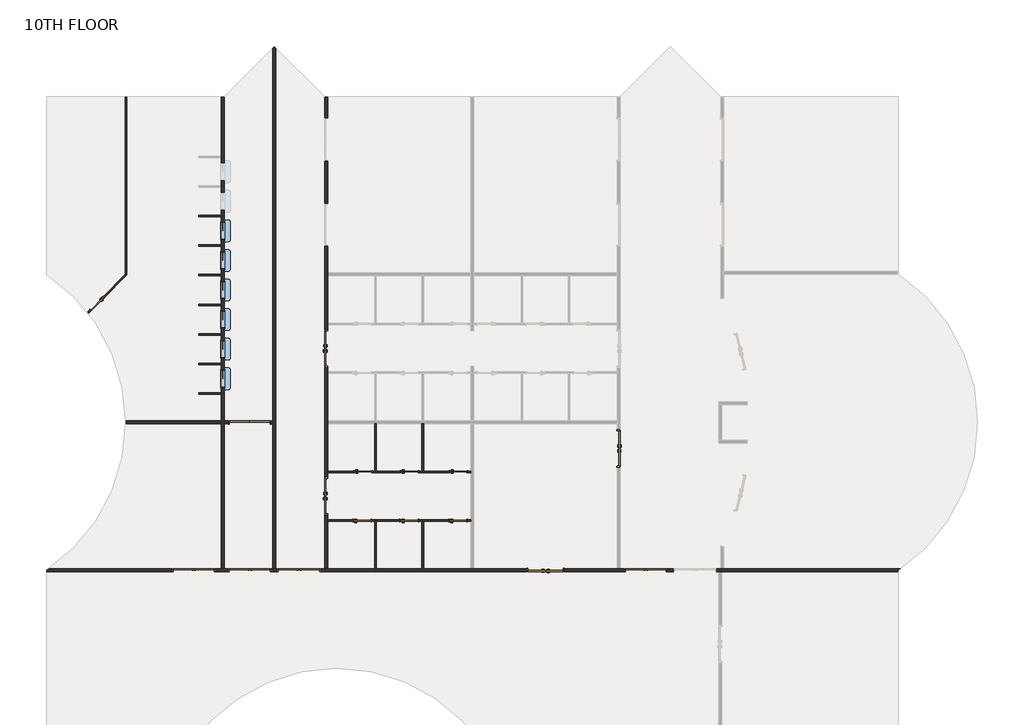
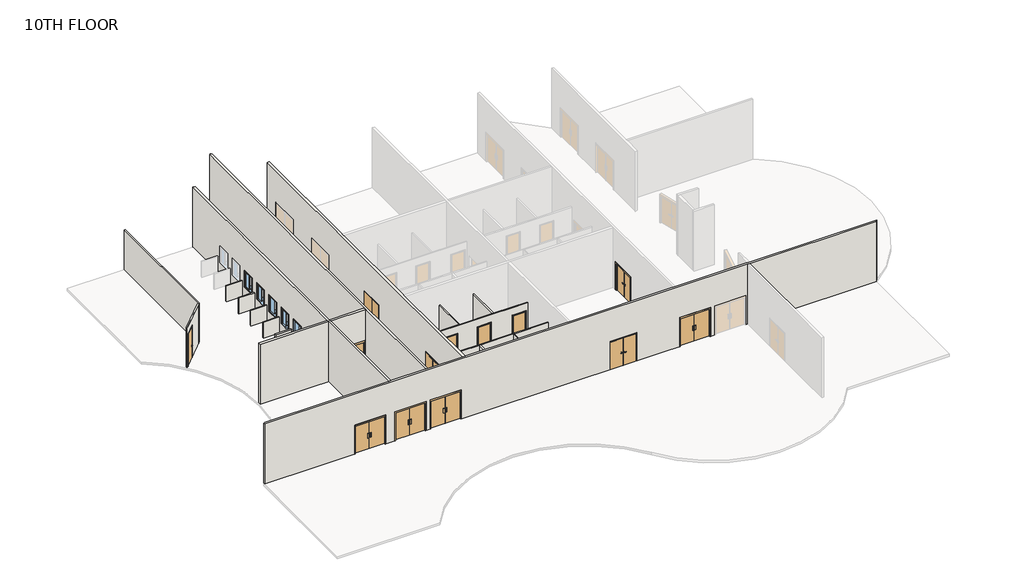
# One storey, part 1 of 2: 20 walls, 16 doors, 6 windows.
"""IFC4 building model written with IfcOpenShell, lengths in millimetres."""

from ifc_helpers import new_model, si_unit, point, frame, frame_2d, origin, place, context, project, spatial, polyline, circle_curve, trimmed, segment, composite_curve, outline, extrude, faceted_brep, transform, mapped, element, save
from ifc_brep_helpers import plane_surface, cylinder_surface, revolved_surface, advanced_brep
from components import door_2f250f70, door_0b13e4d9, door_b3a27a16, door_979b1b8c, door_f8b587be, pass_thru_4x3_19d81059

model = new_model("IFC4")

# Units and contexts
model_context = context("Model", 3, world=origin())
ifc_project = project(units=[si_unit("LENGTHUNIT", "METRE", prefix="MILLI")], contexts=[model_context])

# Site, building, storey
site = spatial("IfcSite", under=ifc_project)
building = spatial("IfcBuilding", under=site)
storey = spatial("IfcBuildingStorey", under=building, Name="10TH FLOOR", Elevation=45720.0)

# Doors
placement = place(None, origin())
door_shape = door_2f250f70(model_context)
element("IfcDoor", 1, ObjectType="Door-Passage-Double-Flush : 72\" x 82\"", at=placement, inside=storey, context=model_context, shape_type="MappedRepresentation", body=[
    mapped(door_shape, transform((14556.3400257, 13109.575, 45720.0), x_axis=(0.0, 1.0, 0.0), y_axis=(-1.0, 0.0, 0.0), z_axis=(0.0, 0.0, 1.0))),
])
element("IfcDoor", 2, ObjectType="Door-Passage-Double-Flush : 72\" x 82\"", at=placement, inside=storey, context=model_context, shape_type="MappedRepresentation", body=[
    mapped(door_shape, transform((14556.3400257, 20729.575, 45720.0), x_axis=(0.0, 1.0, 0.0), y_axis=(-1.0, 0.0, 0.0), z_axis=(0.0, 0.0, 1.0))),
])
element("IfcDoor", 3, ObjectType="Door-Passage-Double-Flush : 72\" x 82\"", at=placement, inside=storey, context=model_context, shape_type="MappedRepresentation", body=[
    mapped(door_shape, transform((25872.8337757, 9305.925, 45720.0), x_axis=(-1.0, 0.0, 0.0), y_axis=(0.0, -1.0, 0.0), z_axis=(0.0, 0.0, 1.0))),
])
element("IfcDoor", 4, ObjectType="Door-Passage-Double-Flush : 72\" x 82\"", at=placement, inside=storey, context=model_context, shape_type="MappedRepresentation", body=[
    mapped(door_shape, transform((29628.0650257, 15571.7875, 45720.0), x_axis=(0.0, -1.0, 0.0), y_axis=(1.0, 0.0, 0.0), z_axis=(0.0, 0.0, 1.0))),
])
door_2_shape = door_0b13e4d9(model_context)
element("IfcDoor", 5, ObjectType="Door-Passage-Double-Flush-Dbl_Acting : 84\" x 84\"", at=placement, inside=storey, context=model_context, shape_type="MappedRepresentation", body=[
    mapped(door_2_shape, transform((13151.4025257, 9293.225, 45720.0), x_axis=(-1.0, 0.0, 0.0), y_axis=(0.0, -1.0, 0.0), z_axis=(0.0, 0.0, 1.0))),
])
door_3_shape = door_b3a27a16(model_context)
element("IfcDoor", 6, ObjectType="Door-Passage-Double-Flush-Dbl_Acting : 84\" x 84\"", at=placement, inside=storey, context=model_context, shape_type="MappedRepresentation", body=[
    mapped(door_3_shape, transform((31033.0025257, 9293.225, 45720.0), x_axis=(1.0, 0.0, 0.0), y_axis=(0.0, 1.0, 0.0), z_axis=(0.0, 0.0, 1.0))),
])
element("IfcDoor", 7, ObjectType="Door-Passage-Double-Flush-Dbl_Acting : 84\" x 84\"", at=placement, inside=storey, context=model_context, shape_type="MappedRepresentation", body=[
    mapped(door_3_shape, transform((10620.375, 9293.225, 45720.0), x_axis=(1.0, 0.0, 0.0), y_axis=(0.0, 1.0, 0.0), z_axis=(0.0, 0.0, 1.0))),
])
element("IfcDoor", 8, ObjectType="Door-Passage-Double-Flush-Dbl_Acting : 84\" x 84\"", at=placement, inside=storey, context=model_context, shape_type="MappedRepresentation", body=[
    mapped(door_3_shape, transform((7730.5724743, 9293.225, 45720.0), x_axis=(1.0, 0.0, 0.0), y_axis=(0.0, 1.0, 0.0), z_axis=(0.0, 0.0, 1.0))),
])
element("IfcDoor", 9, ObjectType="Door-Passage-Double-Flush-Dbl_Acting : 84\" x 84\"", at=placement, inside=storey, context=model_context, shape_type="MappedRepresentation", body=[
    mapped(door_3_shape, transform((10620.375, 16913.225, 45720.0), x_axis=(1.0, 0.0, 0.0), y_axis=(0.0, 1.0, 0.0), z_axis=(0.0, 0.0, 1.0))),
])
door_4_shape = door_979b1b8c(model_context)
element("IfcDoor", 10, ObjectType="Door-Passage-Single-Flush : 36\" x 96\"", at=placement, inside=storey, context=model_context, shape_type="MappedRepresentation", body=[
    mapped(door_4_shape, transform((16456.5775257, 14357.35, 45720.0), x_axis=(1.0, 0.0, 0.0), y_axis=(0.0, 1.0, 0.0), z_axis=(0.0, 0.0, 1.0))),
])
element("IfcDoor", 11, ObjectType="Door-Passage-Single-Flush : 36\" x 96\"", at=placement, inside=storey, context=model_context, shape_type="MappedRepresentation", body=[
    mapped(door_4_shape, transform((18855.2900257, 14357.35, 45720.0), x_axis=(1.0, 0.0, 0.0), y_axis=(0.0, 1.0, 0.0), z_axis=(0.0, 0.0, 1.0))),
])
element("IfcDoor", 12, ObjectType="Door-Passage-Single-Flush : 36\" x 96\"", at=placement, inside=storey, context=model_context, shape_type="MappedRepresentation", body=[
    mapped(door_4_shape, transform((21373.0650257, 14357.35, 45720.0), x_axis=(1.0, 0.0, 0.0), y_axis=(0.0, 1.0, 0.0), z_axis=(0.0, 0.0, 1.0))),
])
element("IfcDoor", 13, ObjectType="Door-Passage-Single-Flush : 36\" x 96\"", at=placement, inside=storey, context=model_context, shape_type="MappedRepresentation", body=[
    mapped(door_4_shape, transform((2731.3607977, 23031.2061406, 45720.0), x_axis=(-0.7071067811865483, -0.7071067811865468, 0.0), y_axis=(0.7071067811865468, -0.7071067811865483, 0.0), z_axis=(0.0, 0.0, 1.0))),
])
door_5_shape = door_f8b587be(model_context)
element("IfcDoor", 14, ObjectType="Door-Passage-Single-Flush : 36\" x 96\"", at=placement, inside=storey, context=model_context, shape_type="MappedRepresentation", body=[
    mapped(door_5_shape, transform((16405.7775257, 11861.8, 45720.0), x_axis=(1.0, 0.0, 0.0), y_axis=(0.0, 1.0, 0.0), z_axis=(0.0, 0.0, 1.0))),
])
element("IfcDoor", 15, ObjectType="Door-Passage-Single-Flush : 36\" x 96\"", at=placement, inside=storey, context=model_context, shape_type="MappedRepresentation", body=[
    mapped(door_5_shape, transform((18836.2400257, 11861.8, 45720.0), x_axis=(1.0, 0.0, 0.0), y_axis=(0.0, 1.0, 0.0), z_axis=(0.0, 0.0, 1.0))),
])
element("IfcDoor", 16, ObjectType="Door-Passage-Single-Flush : 36\" x 96\"", at=placement, inside=storey, context=model_context, shape_type="MappedRepresentation", body=[
    mapped(door_5_shape, transform((21354.0150257, 11861.8, 45720.0), x_axis=(1.0, 0.0, 0.0), y_axis=(0.0, 1.0, 0.0), z_axis=(0.0, 0.0, 1.0))),
])

# Walls
element("IfcWall", 17, ObjectType="SYR_INT_ONE_HOUR", at=placement, inside=storey, context=model_context, shape_type="SweptSolid", body=[
    extrude(outline(polyline([(17066.1775257, 14403.3875), (17066.1775257, 16841.7875), (17145.5525257, 16841.7875), (17145.5525257, 14403.3875), (17066.1775257, 14403.3875)])), frame((0.0, 0.0, 45720.0), z_axis=(0.0, 0.0, 1.0), x_axis=(1.0, 0.0, 0.0)), (0.0, 0.0, 1.0), 3048.0),
])
element("IfcWall", 18, ObjectType="SYR_INT_ONE_HOUR", at=placement, inside=storey, context=model_context, shape_type="SweptSolid", body=[
    extrude(outline(polyline([(19576.0150257, 11815.7625), (19576.0150257, 9377.3625), (19496.6400257, 9377.3625), (19496.6400257, 11815.7625), (19576.0150257, 11815.7625)])), frame((0.0, 0.0, 45720.0), z_axis=(0.0, 0.0, 1.0), x_axis=(1.0, 0.0, 0.0)), (0.0, 0.0, 1.0), 3048.0),
])
element("IfcWall", 19, ObjectType="SYR_INT_ONE_HOUR", at=placement, inside=storey, context=model_context, shape_type="Brep", body=[
    faceted_brep([(14627.7775257, 14403.3875, 48768.0), (17066.1775257, 14403.3875, 48768.0), (17145.5525257, 14403.3875, 48768.0), (19496.6400257, 14403.3875, 48768.0), (19576.0150257, 14403.3875, 48768.0), (22014.4150257, 14403.3875, 48768.0), (22014.4150257, 14403.3875, 45720.0), (21862.0150257, 14403.3875, 45720.0), (21862.0150257, 14403.3875, 48190.15), (20884.1150257, 14403.3875, 48190.15), (20884.1150257, 14403.3875, 45720.0), (19576.0150257, 14403.3875, 45720.0), (19496.6400257, 14403.3875, 45720.0), (19344.2400257, 14403.3875, 45720.0), (19344.2400257, 14403.3875, 48190.15), (18366.3400257, 14403.3875, 48190.15), (18366.3400257, 14403.3875, 45720.0), (17145.5525257, 14403.3875, 45720.0), (17066.1775257, 14403.3875, 45720.0), (16945.5275257, 14403.3875, 45720.0), (16945.5275257, 14403.3875, 48190.15), (15967.6275257, 14403.3875, 48190.15), (15967.6275257, 14403.3875, 45720.0), (14627.7775257, 14403.3875, 45720.0), (22014.4150257, 14324.0125, 48768.0), (14627.7775257, 14324.0125, 48768.0), (14627.7775257, 14324.0125, 45720.0), (15967.6275257, 14324.0125, 45720.0), (15967.6275257, 14324.0125, 48190.15), (16945.5275257, 14324.0125, 48190.15), (16945.5275257, 14324.0125, 45720.0), (18366.3400257, 14324.0125, 45720.0), (18366.3400257, 14324.0125, 48190.15), (19344.2400257, 14324.0125, 48190.15), (19344.2400257, 14324.0125, 45720.0), (20884.1150257, 14324.0125, 45720.0), (20884.1150257, 14324.0125, 48190.15), (21862.0150257, 14324.0125, 48190.15), (21862.0150257, 14324.0125, 45720.0), (22014.4150257, 14324.0125, 45720.0)], [[[0, 1, 2, 3, 4, 5, 6, 7, 8, 9, 10, 11, 12, 13, 14, 15, 16, 17, 18, 19, 20, 21, 22, 23]], [[24, 25, 26, 27, 28, 29, 30, 31, 32, 33, 34, 35, 36, 37, 38, 39]], [[6, 39, 38, 7]], [[26, 23, 22, 27]], [[30, 19, 18, 17, 16, 31]], [[34, 13, 12, 11, 10, 35]], [[5, 4, 3, 2, 1, 0, 25, 24]], [[0, 23, 26, 25]], [[6, 5, 24, 39]], [[29, 20, 19, 30]], [[20, 29, 28, 21]], [[21, 28, 27, 22]], [[14, 13, 34, 33]], [[15, 14, 33, 32]], [[16, 15, 32, 31]], [[37, 8, 7, 38]], [[8, 37, 36, 9]], [[9, 36, 35, 10]]]),
])
element("IfcWall", 20, ObjectType="SYR_INT_ONE_HOUR", at=placement, inside=storey, context=model_context, shape_type="Brep", body=[
    faceted_brep([(14627.7775257, 11895.1375, 48768.0), (22014.4150257, 11895.1375, 48768.0), (22014.4150257, 11895.1375, 45720.0), (21842.9650257, 11895.1375, 45720.0), (21842.9650257, 11895.1375, 48190.15), (20865.0650257, 11895.1375, 48190.15), (20865.0650257, 11895.1375, 45720.0), (19325.1900257, 11895.1375, 45720.0), (19325.1900257, 11895.1375, 48190.15), (18347.2900257, 11895.1375, 48190.15), (18347.2900257, 11895.1375, 45720.0), (16894.7275257, 11895.1375, 45720.0), (16894.7275257, 11895.1375, 48190.15), (15916.8275257, 11895.1375, 48190.15), (15916.8275257, 11895.1375, 45720.0), (14627.7775257, 11895.1375, 45720.0), (22014.4150257, 11815.7625, 48768.0), (19576.0150257, 11815.7625, 48768.0), (19496.6400257, 11815.7625, 48768.0), (17145.5525257, 11815.7625, 48768.0), (17066.1775257, 11815.7625, 48768.0), (14627.7775257, 11815.7625, 48768.0), (14627.7775257, 11815.7625, 45720.0), (15916.8275257, 11815.7625, 45720.0), (15916.8275257, 11815.7625, 48190.15), (16894.7275257, 11815.7625, 48190.15), (16894.7275257, 11815.7625, 45720.0), (17066.1775257, 11815.7625, 45720.0), (17145.5525257, 11815.7625, 45720.0), (18347.2900257, 11815.7625, 45720.0), (18347.2900257, 11815.7625, 48190.15), (19325.1900257, 11815.7625, 48190.15), (19325.1900257, 11815.7625, 45720.0), (19496.6400257, 11815.7625, 45720.0), (19576.0150257, 11815.7625, 45720.0), (20865.0650257, 11815.7625, 45720.0), (20865.0650257, 11815.7625, 48190.15), (21842.9650257, 11815.7625, 48190.15), (21842.9650257, 11815.7625, 45720.0), (22014.4150257, 11815.7625, 45720.0)], [[[0, 1, 2, 3, 4, 5, 6, 7, 8, 9, 10, 11, 12, 13, 14, 15]], [[16, 17, 18, 19, 20, 21, 22, 23, 24, 25, 26, 27, 28, 29, 30, 31, 32, 33, 34, 35, 36, 37, 38, 39]], [[2, 39, 38, 3]], [[22, 15, 14, 23]], [[26, 11, 10, 29, 28, 27]], [[32, 7, 6, 35, 34, 33]], [[1, 0, 21, 20, 19, 18, 17, 16]], [[0, 15, 22, 21]], [[2, 1, 16, 39]], [[25, 12, 11, 26]], [[12, 25, 24, 13]], [[13, 24, 23, 14]], [[31, 8, 7, 32]], [[8, 31, 30, 9]], [[9, 30, 29, 10]], [[37, 4, 3, 38]], [[4, 37, 36, 5]], [[5, 36, 35, 6]]]),
])
element("IfcWall", 21, ObjectType="SYR_INT_ONE_HOUR", at=placement, inside=storey, context=model_context, shape_type="SweptSolid", body=[
    extrude(outline(polyline([(17066.1775257, 9377.3625), (17066.1775257, 11815.7625), (17145.5525257, 11815.7625), (17145.5525257, 9377.3625), (17066.1775257, 9377.3625)])), frame((0.0, 0.0, 45720.0), z_axis=(0.0, 0.0, 1.0), x_axis=(1.0, 0.0, 0.0)), (0.0, 0.0, 1.0), 3048.0),
])
element("IfcWall", 22, ObjectType="SYR_INT_ONE_HOUR", at=placement, inside=storey, context=model_context, shape_type="SweptSolid", body=[
    extrude(outline(polyline([(19576.0150257, 16841.7875), (19576.0150257, 14403.3875), (19496.6400257, 14403.3875), (19496.6400257, 16841.7875), (19576.0150257, 16841.7875)])), frame((0.0, 0.0, 45720.0), z_axis=(0.0, 0.0, 1.0), x_axis=(1.0, 0.0, 0.0)), (0.0, 0.0, 1.0), 3048.0),
])
element("IfcWall", 23, ObjectType="SYR_INT_ONE_HOUR", at=placement, inside=storey, context=model_context, shape_type="SweptSolid", body=[
    extrude(outline(polyline([(7979.2710938, 18443.575), (9144.0, 18443.575), (9144.0, 18364.2), (7979.2710938, 18364.2), (7979.2710938, 18443.575)])), frame((0.0, 0.0, 45720.0), z_axis=(0.0, 0.0, 1.0), x_axis=(1.0, 0.0, 0.0)), (0.0, 0.0, 1.0), 1219.2),
])
element("IfcWall", 24, ObjectType="SYR_INT_ONE_HOUR", at=placement, inside=storey, context=model_context, shape_type="SweptSolid", body=[
    extrude(outline(polyline([(7979.2710938, 19967.575), (9144.0, 19967.575), (9144.0, 19888.2), (7979.2710938, 19888.2), (7979.2710938, 19967.575)])), frame((0.0, 0.0, 45720.0), z_axis=(0.0, 0.0, 1.0), x_axis=(1.0, 0.0, 0.0)), (0.0, 0.0, 1.0), 1219.2),
])
element("IfcWall", 25, ObjectType="SYR_INT_ONE_HOUR", at=placement, inside=storey, context=model_context, shape_type="SweptSolid", body=[
    extrude(outline(polyline([(7979.2710938, 21491.575), (9144.0, 21491.575), (9144.0, 21412.2), (7979.2710938, 21412.2), (7979.2710938, 21491.575)])), frame((0.0, 0.0, 45720.0), z_axis=(0.0, 0.0, 1.0), x_axis=(1.0, 0.0, 0.0)), (0.0, 0.0, 1.0), 1219.2),
])
element("IfcWall", 26, ObjectType="SYR_INT_ONE_HOUR", at=placement, inside=storey, context=model_context, shape_type="SweptSolid", body=[
    extrude(outline(polyline([(7979.2710938, 23015.575), (9144.0, 23015.575), (9144.0, 22936.2), (7979.2710938, 22936.2), (7979.2710938, 23015.575)])), frame((0.0, 0.0, 45720.0), z_axis=(0.0, 0.0, 1.0), x_axis=(1.0, 0.0, 0.0)), (0.0, 0.0, 1.0), 1219.2),
])
element("IfcWall", 27, ObjectType="SYR_INT_ONE_HOUR", at=placement, inside=storey, context=model_context, shape_type="SweptSolid", body=[
    extrude(outline(polyline([(7979.2710938, 24539.575), (9144.0, 24539.575), (9144.0, 24460.2), (7979.2710938, 24460.2), (7979.2710938, 24539.575)])), frame((0.0, 0.0, 45720.0), z_axis=(0.0, 0.0, 1.0), x_axis=(1.0, 0.0, 0.0)), (0.0, 0.0, 1.0), 1219.2),
])
element("IfcWall", 28, ObjectType="SYR_INT_ONE_HOUR", at=placement, inside=storey, context=model_context, shape_type="SweptSolid", body=[
    extrude(outline(polyline([(7979.2710938, 26063.575), (9144.0, 26063.575), (9144.0, 25984.2), (7979.2710938, 25984.2), (7979.2710938, 26063.575)])), frame((0.0, 0.0, 45720.0), z_axis=(0.0, 0.0, 1.0), x_axis=(1.0, 0.0, 0.0)), (0.0, 0.0, 1.0), 1219.2),
])
element("IfcWall", 29, ObjectType="SYR_INT_ONE_HOUR", at=placement, inside=storey, context=model_context, shape_type="SweptSolid", body=[
    extrude(outline(polyline([(7979.2710938, 27587.575), (9144.0, 27587.575), (9144.0, 27508.2), (7979.2710938, 27508.2), (7979.2710938, 27587.575)])), frame((0.0, 0.0, 45720.0), z_axis=(0.0, 0.0, 1.0), x_axis=(1.0, 0.0, 0.0)), (0.0, 0.0, 1.0), 1219.2),
])
element("IfcWall", 30, ObjectType="SYR_INT_ONE_HOUR", at=placement, inside=storey, context=model_context, shape_type="Brep", body=[
    faceted_brep([(4209.0224132, 33683.575, 45720.0), (4209.0224132, 24556.0141008, 45720.0), (4209.0224132, 24443.7608992, 45720.0), (4209.0224132, 24443.7608992, 48768.0), (4209.0224132, 24556.0141008, 48768.0), (4209.0224132, 33683.575, 48768.0), (4288.3974132, 33683.575, 45720.0), (4288.3974132, 33683.575, 48768.0), (4288.3974132, 24523.1358992, 48768.0), (4288.3974132, 24523.1358992, 45720.0)], [[[0, 1, 2, 3, 4, 5]], [[6, 7, 8, 9]], [[2, 1, 0, 6, 9]], [[5, 4, 3, 8, 7]], [[3, 2, 9, 8]], [[0, 5, 7, 6]]]),
])
element("IfcWall", 31, ObjectType="SYR_INT_ONE_HOUR", at=placement, inside=storey, context=model_context, shape_type="AdvancedBrep", body=[
    advanced_brep(
    [(2260.5955581, 22607.5872456, 48768.0), (4209.0224132, 24556.0141008, 48768.0), (4209.0224132, 24556.0141008, 45720.0), (3053.527486, 23400.5191735, 45720.0), (3053.527486, 23400.5191735, 48190.15), (2362.0477647, 22709.0394522, 48190.15), (2362.0477647, 22709.0394522, 45720.0), (2260.5955581, 22607.5872456, 45720.0), (4209.0224132, 24443.7608992, 48768.0), (2310.04482, 22544.783306, 48768.0), (2310.04482, 22544.783306, 45720.0), (2418.1743655, 22652.9128515, 45720.0), (2418.1743655, 22652.9128515, 48190.15), (3109.6540868, 23344.3925728, 48190.15), (3109.6540868, 23344.3925728, 45720.0), (4209.0224132, 24443.7608992, 45720.0)],
    [
        (0, 1),
        (1, 2),
        (2, 3),
        (3, 4),
        (4, 5),
        (5, 6),
        (6, 7),
        (7, 0),
        (8, 9),
        (9, 10),
        (10, 11),
        (11, 12),
        (12, 13),
        (13, 14),
        (14, 15),
        (15, 8),
        (2, 15),
        (14, 3),
        (10, 7, circle_curve(frame((-4898.9611805, 16919.575, 45720.0), z_axis=(0.0, 0.0, 1.0), x_axis=(1.0, 0.0, 0.0)), 9144.0)),
        (6, 11),
        (0, 9, circle_curve(frame((-4898.9611805, 16919.575, 48768.0), z_axis=(0.0, 0.0, -1.0), x_axis=(1.0, 0.0, 0.0)), 9144.0)),
        (8, 1),
        (5, 12),
        (4, 13),
    ],
    [
        plane_surface(frame((4220.6466129, 24567.6383004, 45720.0), z_axis=(-0.7071067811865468, 0.7071067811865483, 0.0), x_axis=(-0.7071067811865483, -0.7071067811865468, 0.0))),
        plane_surface(frame((4276.7732136, 24511.5116996, 45720.0), z_axis=(0.7071067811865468, -0.7071067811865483, 0.0), x_axis=(0.7071067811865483, 0.7071067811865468, 0.0))),
        plane_surface(frame((4220.6466129, 24567.6383004, 45720.0), z_axis=(0.0, 0.0, -1.0), x_axis=(0.7071067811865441, -0.7071067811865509, 0.0))),
        plane_surface(frame((2146.5216178, 22493.5133053, 48768.0), z_axis=(0.0, 0.0, 1.0000000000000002), x_axis=(0.7071067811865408, -0.7071067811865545, 0.0))),
        plane_surface(frame((4209.0224132, 33778.5769531, 45720.0), z_axis=(1.0, 0.0, 0.0), x_axis=(0.0, -1.0, 0.0))),
        plane_surface(frame((1284.4170302, 23786.6701867, 45720.0), z_axis=(0.7071067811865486, 0.7071067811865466, 0.0), x_axis=(0.7071067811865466, -0.7071067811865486, 0.0))),
        plane_surface(frame((1284.4170302, 23786.6701867, 48190.15), z_axis=(0.0, 0.0, -1.0), x_axis=(0.7071067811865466, -0.7071067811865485, 0.0))),
        plane_surface(frame((1975.8967515, 24478.1499081, 48190.15), z_axis=(-0.7071067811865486, -0.7071067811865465, 0.0), x_axis=(0.7071067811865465, -0.7071067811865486, 0.0))),
        revolved_surface(polyline([(4245.0388195, 16919.575, 48768.0), (4245.0388195, 16919.575, 45720.0)]), (-4898.9611805, 16919.575, 0.0), (0.0, 0.0, 1.0)),
    ],
    [
        (0, [[1, 2, 3, 4, 5, 6, 7, 8]]),
        (1, [[9, 10, 11, 12, 13, 14, 15, 16]]),
        (2, [[17, -15, 18, -3]]),
        (2, [[19, -7, 20, -11]]),
        (3, [[-1, 21, -9, 22]]),
        (4, [[-2, -22, -16, -17]]),
        (5, [[23, -12, -20, -6]]),
        (6, [[-23, -5, 24, -13]]),
        (7, [[-24, -4, -18, -14]]),
        (8, [[-8, -19, -10, -21]]),
    ],
),
])
element("IfcWall", 32, ObjectType="SYR_INT_TWO_HOUR", at=placement, inside=storey, context=model_context, shape_type="AdvancedBrep", body=[
    advanced_brep(
    [(270.9292057, 9377.3625, 50292.0), (9144.0, 9377.3625, 50292.0), (9299.575, 9377.3625, 50292.0), (11808.1012629, 9377.3625, 50292.0), (11963.6762629, 9377.3625, 50292.0), (14472.2025257, 9377.3625, 50292.0), (14627.7775257, 9377.3625, 50292.0), (22014.4150257, 9377.3625, 50292.0), (22169.9900257, 9377.3625, 50292.0), (29556.6275257, 9377.3625, 50292.0), (29712.2025257, 9377.3625, 50292.0), (34884.8300515, 9377.3625, 50292.0), (35040.4050515, 9377.3625, 50292.0), (44144.1842571, 9377.3625, 50292.0), (44144.1842571, 9377.3625, 45720.0), (35040.4050515, 9377.3625, 45720.0), (34884.8300515, 9377.3625, 45720.0), (34681.6300515, 9377.3625, 45720.0), (34681.6300515, 9377.3625, 47955.2), (32446.4300515, 9377.3625, 47955.2), (32446.4300515, 9377.3625, 45720.0), (32150.6025257, 9377.3625, 45720.0), (32150.6025257, 9377.3625, 47955.2), (29915.4025257, 9377.3625, 47955.2), (29915.4025257, 9377.3625, 45720.0), (29712.2025257, 9377.3625, 45720.0), (29556.6275257, 9377.3625, 45720.0), (26838.0337757, 9377.3625, 45720.0), (26838.0337757, 9377.3625, 47904.4), (24907.6337757, 9377.3625, 47904.4), (24907.6337757, 9377.3625, 45720.0), (22169.9900257, 9377.3625, 45720.0), (22014.4150257, 9377.3625, 45720.0), (19576.0150257, 9377.3625, 45720.0), (19496.6400257, 9377.3625, 45720.0), (17145.5525257, 9377.3625, 45720.0), (17066.1775257, 9377.3625, 45720.0), (14627.7775257, 9377.3625, 45720.0), (14472.2025257, 9377.3625, 45720.0), (14269.0025257, 9377.3625, 45720.0), (14269.0025257, 9377.3625, 47955.2), (12033.8025257, 9377.3625, 47955.2), (12033.8025257, 9377.3625, 45720.0), (11963.6762629, 9377.3625, 45720.0), (11808.1012629, 9377.3625, 45720.0), (11737.975, 9377.3625, 45720.0), (11737.975, 9377.3625, 47955.2), (9502.775, 9377.3625, 47955.2), (9502.775, 9377.3625, 45720.0), (9299.575, 9377.3625, 45720.0), (9144.0, 9377.3625, 45720.0), (8848.1724743, 9377.3625, 45720.0), (8848.1724743, 9377.3625, 47955.2), (6612.9724743, 9377.3625, 47955.2), (6612.9724743, 9377.3625, 45720.0), (270.9292057, 9377.3625, 45720.0), (155.575, 9221.7875, 50292.0), (155.575, 9221.7875, 45720.0), (6612.9724743, 9221.7875, 45720.0), (6612.9724743, 9221.7875, 47955.2), (8848.1724743, 9221.7875, 47955.2), (8848.1724743, 9221.7875, 45720.0), (9502.775, 9221.7875, 45720.0), (9502.775, 9221.7875, 47955.2), (11737.975, 9221.7875, 47955.2), (11737.975, 9221.7875, 45720.0), (12033.8025257, 9221.7875, 45720.0), (12033.8025257, 9221.7875, 47955.2), (14269.0025257, 9221.7875, 47955.2), (14269.0025257, 9221.7875, 45720.0), (24907.6337757, 9221.7875, 45720.0), (24907.6337757, 9221.7875, 47904.4), (26838.0337757, 9221.7875, 47904.4), (26838.0337757, 9221.7875, 45720.0), (29915.4025257, 9221.7875, 45720.0), (29915.4025257, 9221.7875, 47955.2), (32150.6025257, 9221.7875, 47955.2), (32150.6025257, 9221.7875, 45720.0), (32446.4300515, 9221.7875, 45720.0), (32446.4300515, 9221.7875, 47955.2), (34681.6300515, 9221.7875, 47955.2), (34681.6300515, 9221.7875, 45720.0), (34803.3714577, 9221.7875, 45720.0), (34958.9464577, 9221.7875, 45720.0), (44028.8300515, 9221.7875, 45720.0), (44028.8300515, 9221.7875, 50292.0), (34958.9464577, 9221.7875, 50292.0), (34803.3714577, 9221.7875, 50292.0), (44028.8300515, 9299.575, 45720.0), (155.575, 9299.575, 45720.0), (155.575, 9299.575, 50292.0), (44028.8300515, 9299.575, 50292.0)],
    [
        (0, 1),
        (1, 2),
        (2, 3),
        (3, 4),
        (4, 5),
        (5, 6),
        (6, 7),
        (7, 8),
        (8, 9),
        (9, 10),
        (10, 11),
        (11, 12),
        (12, 13),
        (13, 14),
        (14, 15),
        (15, 16),
        (16, 17),
        (17, 18),
        (18, 19),
        (19, 20),
        (20, 21),
        (21, 22),
        (22, 23),
        (23, 24),
        (24, 25),
        (25, 26),
        (26, 27),
        (27, 28),
        (28, 29),
        (29, 30),
        (30, 31),
        (31, 32),
        (32, 33),
        (33, 34),
        (34, 35),
        (35, 36),
        (36, 37),
        (37, 38),
        (38, 39),
        (39, 40),
        (40, 41),
        (41, 42),
        (42, 43),
        (43, 44),
        (44, 45),
        (45, 46),
        (46, 47),
        (47, 48),
        (48, 49),
        (49, 50),
        (50, 51),
        (51, 52),
        (52, 53),
        (53, 54),
        (54, 55),
        (55, 0),
        (56, 57),
        (57, 58),
        (58, 59),
        (59, 60),
        (60, 61),
        (61, 62),
        (62, 63),
        (63, 64),
        (64, 65),
        (65, 66),
        (66, 67),
        (67, 68),
        (68, 69),
        (69, 70),
        (70, 71),
        (71, 72),
        (72, 73),
        (73, 74),
        (74, 75),
        (75, 76),
        (76, 77),
        (77, 78),
        (78, 79),
        (79, 80),
        (80, 81),
        (81, 82),
        (82, 83),
        (83, 84),
        (84, 85),
        (85, 86),
        (86, 87),
        (87, 56),
        (20, 78),
        (77, 21),
        (81, 17),
        (14, 88, circle_curve(frame((38974.293871, 16919.575, 45720.0), z_axis=(0.0, 0.0, -1.0), x_axis=(0.8333333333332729, 0.5527707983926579, 0.0)), 9144.0)),
        (88, 84),
        (24, 74),
        (73, 27),
        (42, 66),
        (65, 45),
        (69, 39),
        (30, 70),
        (48, 62),
        (61, 51),
        (54, 58),
        (57, 89),
        (89, 55, circle_curve(frame((-4898.9611805, 16919.575, 45720.0), z_axis=(0.0, 0.0, 1.0), x_axis=(0.8333333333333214, 0.5527707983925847, 0.0)), 9144.0)),
        (0, 90, circle_curve(frame((-4898.9611805, 16919.575, 50292.0), z_axis=(0.0, 0.0, -1.0), x_axis=(0.8333333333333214, 0.5527707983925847, 0.0)), 9144.0)),
        (90, 56),
        (85, 91),
        (91, 13, circle_curve(frame((38974.293871, 16919.575, 50292.0), z_axis=(0.0, 0.0, 1.0), x_axis=(0.8333333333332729, 0.5527707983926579, 0.0)), 9144.0)),
        (19, 79),
        (18, 80),
        (76, 22),
        (75, 23),
        (41, 67),
        (40, 68),
        (64, 46),
        (63, 47),
        (60, 52),
        (59, 53),
        (29, 71),
        (28, 72),
        (89, 90),
        (91, 88),
    ],
    [
        plane_surface(frame((44028.8300515, 9377.3625, 45720.0), z_axis=(0.0, 1.0, 0.0), x_axis=(-1.0, 0.0, 0.0))),
        plane_surface(frame((44028.8300515, 9221.7875, 45720.0), z_axis=(0.0, -1.0, 0.0), x_axis=(1.0, 0.0, 0.0))),
        plane_surface(frame((44305.118871, 9377.3625, 45720.0), z_axis=(0.0, 0.0, -1.0), x_axis=(0.0, -1.0, 0.0))),
        plane_surface(frame((0.0, 9377.3625, 50292.0), z_axis=(0.0, 0.0, 1.0), x_axis=(0.0, -1.0, 0.0))),
        plane_surface(frame((32446.4300515, 10745.7875, 45720.0), z_axis=(1.0, 0.0, 0.0), x_axis=(0.0, -1.0, 0.0))),
        plane_surface(frame((32446.4300515, 10745.7875, 47955.2), z_axis=(0.0, 0.0, -1.0), x_axis=(0.0, -1.0, 0.0))),
        plane_surface(frame((34681.6300515, 10745.7875, 47955.2), z_axis=(-1.0, 0.0, 0.0), x_axis=(0.0, -1.0, 0.0))),
        plane_surface(frame((32150.6025257, 7697.7875, 45720.0), z_axis=(-1.0, 0.0, 0.0), x_axis=(0.0, 1.0, 0.0))),
        plane_surface(frame((32150.6025257, 7697.7875, 47955.2), z_axis=(0.0, 0.0, -1.0), x_axis=(0.0, 1.0, 0.0))),
        plane_surface(frame((29915.4025257, 7697.7875, 47955.2), z_axis=(1.0, 0.0, 0.0), x_axis=(0.0, 1.0, 0.0))),
        plane_surface(frame((12033.8025257, 10745.7875, 45720.0), z_axis=(1.0, 0.0, 0.0), x_axis=(0.0, -1.0, 0.0))),
        plane_surface(frame((12033.8025257, 10745.7875, 47955.2), z_axis=(0.0, 0.0, -1.0), x_axis=(0.0, -1.0, 0.0))),
        plane_surface(frame((14269.0025257, 10745.7875, 47955.2), z_axis=(-1.0, 0.0, 0.0), x_axis=(0.0, -1.0, 0.0))),
        plane_surface(frame((11737.975, 7697.7875, 45720.0), z_axis=(-1.0, 0.0, 0.0), x_axis=(0.0, 1.0, 0.0))),
        plane_surface(frame((11737.975, 7697.7875, 47955.2), z_axis=(0.0, 0.0, -1.0), x_axis=(0.0, 1.0, 0.0))),
        plane_surface(frame((9502.775, 7697.7875, 47955.2), z_axis=(1.0, 0.0, 0.0), x_axis=(0.0, 1.0, 0.0))),
        plane_surface(frame((8848.1724743, 7697.7875, 45720.0), z_axis=(-1.0, 0.0, 0.0), x_axis=(0.0, 1.0, 0.0))),
        plane_surface(frame((8848.1724743, 7697.7875, 47955.2), z_axis=(0.0, 0.0, -1.0), x_axis=(0.0, 1.0, 0.0))),
        plane_surface(frame((6612.9724743, 7697.7875, 47955.2), z_axis=(1.0, 0.0, 0.0), x_axis=(0.0, 1.0, 0.0))),
        plane_surface(frame((24907.6337757, 10901.3625, 45720.0), z_axis=(1.0, 0.0, 0.0), x_axis=(0.0, -1.0, 0.0))),
        plane_surface(frame((24907.6337757, 10901.3625, 47904.4), z_axis=(0.0, 0.0, -1.0), x_axis=(0.0, -1.0, 0.0))),
        plane_surface(frame((26838.0337757, 10901.3625, 47904.4), z_axis=(-1.0, 0.0, 0.0), x_axis=(0.0, -1.0, 0.0))),
        revolved_surface(polyline([(2721.0388194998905, 21974.111180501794, 50292.0), (2721.0388194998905, 21974.111180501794, 45720.0)]), (-4898.9611805, 16919.575, 45491.4), (0.0, 0.0, 1.0)),
        plane_surface(frame((155.575, -12852.9844355, 45491.4), z_axis=(-1.0, 0.0, 0.0), x_axis=(0.0, -1.0, 0.0))),
        cylinder_surface(frame((38974.293871, 16919.575, 45491.4), z_axis=(0.0, 0.0, 1.0), x_axis=(0.8333333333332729, 0.5527707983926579, 0.0)), 9144.0),
        plane_surface(frame((44028.8300515, -12852.9844355, 45491.4), z_axis=(1.0, 0.0, 0.0), x_axis=(0.0, 1.0, 0.0))),
    ],
    [
        (0, [[1, 2, 3, 4, 5, 6, 7, 8, 9, 10, 11, 12, 13, 14, 15, 16, 17, 18, 19, 20, 21, 22, 23, 24, 25, 26, 27, 28, 29, 30, 31, 32, 33, 34, 35, 36, 37, 38, 39, 40, 41, 42, 43, 44, 45, 46, 47, 48, 49, 50, 51, 52, 53, 54, 55, 56]]),
        (1, [[57, 58, 59, 60, 61, 62, 63, 64, 65, 66, 67, 68, 69, 70, 71, 72, 73, 74, 75, 76, 77, 78, 79, 80, 81, 82, 83, 84, 85, 86, 87, 88]]),
        (2, [[89, -78, 90, -21]]),
        (2, [[91, -17, -16, -15, 92, 93, -84, -83, -82]]),
        (2, [[94, -74, 95, -27, -26, -25]]),
        (2, [[96, -66, 97, -45, -44, -43]]),
        (2, [[98, -39, -38, -37, -36, -35, -34, -33, -32, -31, 99, -70]]),
        (2, [[100, -62, 101, -51, -50, -49]]),
        (2, [[-55, 102, -58, 103, 104]]),
        (3, [[-13, -12, -11, -10, -9, -8, -7, -6, -5, -4, -3, -2, -1, 105, 106, -88, -87, -86, 107, 108]]),
        (4, [[109, -79, -89, -20]]),
        (5, [[-109, -19, 110, -80]]),
        (6, [[-110, -18, -91, -81]]),
        (7, [[111, -22, -90, -77]]),
        (8, [[-111, -76, 112, -23]]),
        (9, [[-112, -75, -94, -24]]),
        (10, [[113, -67, -96, -42]]),
        (11, [[-113, -41, 114, -68]]),
        (12, [[-114, -40, -98, -69]]),
        (13, [[115, -46, -97, -65]]),
        (14, [[-115, -64, 116, -47]]),
        (15, [[-116, -63, -100, -48]]),
        (16, [[117, -52, -101, -61]]),
        (17, [[-117, -60, 118, -53]]),
        (18, [[-118, -59, -102, -54]]),
        (19, [[119, -71, -99, -30]]),
        (20, [[-119, -29, 120, -72]]),
        (21, [[-120, -28, -95, -73]]),
        (22, [[-56, -104, 121, -105]]),
        (23, [[-57, -106, -121, -103]]),
        (24, [[-14, -108, 122, -92]]),
        (25, [[-85, -93, -122, -107]]),
    ],
),
])
element("IfcWall", 33, ObjectType="SYR_INT_TWO_HOUR", at=placement, inside=storey, context=model_context, shape_type="Brep", body=[
    faceted_brep([(9144.0, 33683.575, 45720.0), (9144.0, 30635.575, 45720.0), (9144.0, 30556.2, 45720.0), (9144.0, 29111.575, 45720.0), (9144.0, 29032.2, 45720.0), (9144.0, 27587.575, 45720.0), (9144.0, 27508.2, 45720.0), (9144.0, 26063.575, 45720.0), (9144.0, 25984.2, 45720.0), (9144.0, 24539.575, 45720.0), (9144.0, 24460.2, 45720.0), (9144.0, 23015.575, 45720.0), (9144.0, 22936.2, 45720.0), (9144.0, 21491.575, 45720.0), (9144.0, 21412.2, 45720.0), (9144.0, 19967.575, 45720.0), (9144.0, 19888.2, 45720.0), (9144.0, 18443.575, 45720.0), (9144.0, 18364.2, 45720.0), (9144.0, 16997.3625, 45720.0), (9144.0, 16841.7875, 45720.0), (9144.0, 9377.3625, 45720.0), (9144.0, 9377.3625, 50292.0), (9144.0, 16841.7875, 50292.0), (9144.0, 16997.3625, 50292.0), (9144.0, 33683.575, 50292.0), (9144.0, 19623.0875, 47853.6), (9144.0, 18708.6875, 47853.6), (9144.0, 18708.6875, 46634.4), (9144.0, 19623.0875, 46634.4), (9144.0, 21147.0875, 47853.6), (9144.0, 20232.6875, 47853.6), (9144.0, 20232.6875, 46634.4), (9144.0, 21147.0875, 46634.4), (9144.0, 22671.0875, 47853.6), (9144.0, 21756.6875, 47853.6), (9144.0, 21756.6875, 46634.4), (9144.0, 22671.0875, 46634.4), (9144.0, 24195.0875, 47853.6), (9144.0, 23280.6875, 47853.6), (9144.0, 23280.6875, 46634.4), (9144.0, 24195.0875, 46634.4), (9144.0, 25719.0875, 47853.6), (9144.0, 24804.6875, 47853.6), (9144.0, 24804.6875, 46634.4), (9144.0, 25719.0875, 46634.4), (9144.0, 27243.0875, 47853.6), (9144.0, 26328.6875, 47853.6), (9144.0, 26328.6875, 46634.4), (9144.0, 27243.0875, 46634.4), (9144.0, 28767.0875, 47853.6), (9144.0, 27852.6875, 47853.6), (9144.0, 27852.6875, 46634.4), (9144.0, 28767.0875, 46634.4), (9144.0, 30291.0875, 47853.6), (9144.0, 29376.6875, 47853.6), (9144.0, 29376.6875, 46634.4), (9144.0, 30291.0875, 46634.4), (9299.575, 33683.575, 45720.0), (9299.575, 33683.575, 50292.0), (9299.575, 16997.3625, 50292.0), (9299.575, 16841.7875, 50292.0), (9299.575, 9377.3625, 50292.0), (9299.575, 9377.3625, 45720.0), (9299.575, 16841.7875, 45720.0), (9299.575, 16997.3625, 45720.0), (9299.575, 19623.0875, 47853.6), (9299.575, 19623.0875, 46634.4), (9299.575, 18708.6875, 46634.4), (9299.575, 18708.6875, 47853.6), (9299.575, 21147.0875, 47853.6), (9299.575, 21147.0875, 46634.4), (9299.575, 20232.6875, 46634.4), (9299.575, 20232.6875, 47853.6), (9299.575, 22671.0875, 47853.6), (9299.575, 22671.0875, 46634.4), (9299.575, 21756.6875, 46634.4), (9299.575, 21756.6875, 47853.6), (9299.575, 24195.0875, 47853.6), (9299.575, 24195.0875, 46634.4), (9299.575, 23280.6875, 46634.4), (9299.575, 23280.6875, 47853.6), (9299.575, 25719.0875, 47853.6), (9299.575, 25719.0875, 46634.4), (9299.575, 24804.6875, 46634.4), (9299.575, 24804.6875, 47853.6), (9299.575, 27243.0875, 47853.6), (9299.575, 27243.0875, 46634.4), (9299.575, 26328.6875, 46634.4), (9299.575, 26328.6875, 47853.6), (9299.575, 28767.0875, 47853.6), (9299.575, 28767.0875, 46634.4), (9299.575, 27852.6875, 46634.4), (9299.575, 27852.6875, 47853.6), (9299.575, 30291.0875, 47853.6), (9299.575, 30291.0875, 46634.4), (9299.575, 29376.6875, 46634.4), (9299.575, 29376.6875, 47853.6)], [[[0, 1, 2, 3, 4, 5, 6, 7, 8, 9, 10, 11, 12, 13, 14, 15, 16, 17, 18, 19, 20, 21, 22, 23, 24, 25], [26, 27, 28, 29], [30, 31, 32, 33], [34, 35, 36, 37], [38, 39, 40, 41], [42, 43, 44, 45], [46, 47, 48, 49], [50, 51, 52, 53], [54, 55, 56, 57]], [[58, 59, 60, 61, 62, 63, 64, 65], [66, 67, 68, 69], [70, 71, 72, 73], [74, 75, 76, 77], [78, 79, 80, 81], [82, 83, 84, 85], [86, 87, 88, 89], [90, 91, 92, 93], [94, 95, 96, 97]], [[21, 20, 19, 18, 17, 16, 15, 14, 13, 12, 11, 10, 9, 8, 7, 6, 5, 4, 3, 2, 1, 0, 58, 65, 64, 63]], [[25, 24, 23, 22, 62, 61, 60, 59]], [[22, 21, 63, 62]], [[67, 66, 26, 29]], [[68, 67, 29, 28]], [[69, 68, 28, 27]], [[66, 69, 27, 26]], [[71, 70, 30, 33]], [[72, 71, 33, 32]], [[73, 72, 32, 31]], [[70, 73, 31, 30]], [[75, 74, 34, 37]], [[76, 75, 37, 36]], [[77, 76, 36, 35]], [[74, 77, 35, 34]], [[79, 78, 38, 41]], [[80, 79, 41, 40]], [[81, 80, 40, 39]], [[78, 81, 39, 38]], [[83, 82, 42, 45]], [[84, 83, 45, 44]], [[85, 84, 44, 43]], [[82, 85, 43, 42]], [[87, 86, 46, 49]], [[88, 87, 49, 48]], [[89, 88, 48, 47]], [[86, 89, 47, 46]], [[91, 90, 50, 53]], [[92, 91, 53, 52]], [[93, 92, 52, 51]], [[90, 93, 51, 50]], [[95, 94, 54, 57]], [[96, 95, 57, 56]], [[97, 96, 56, 55]], [[94, 97, 55, 54]], [[0, 25, 59, 58]]]),
])
element("IfcWall", 34, ObjectType="SYR_INT_TWO_HOUR", at=placement, inside=storey, context=model_context, shape_type="Brep", body=[
    faceted_brep([(14472.2025257, 9377.3625, 50292.0), (14472.2025257, 33683.575, 50292.0), (14472.2025257, 33683.575, 45720.0), (14472.2025257, 32616.775, 45720.0), (14472.2025257, 32616.775, 47955.2), (14472.2025257, 30381.575, 47955.2), (14472.2025257, 30381.575, 45720.0), (14472.2025257, 28219.4, 45720.0), (14472.2025257, 28219.4, 47955.2), (14472.2025257, 25984.2, 47955.2), (14472.2025257, 25984.2, 45720.0), (14472.2025257, 21694.775, 45720.0), (14472.2025257, 21694.775, 47904.4), (14472.2025257, 19764.375, 47904.4), (14472.2025257, 19764.375, 45720.0), (14472.2025257, 14074.775, 45720.0), (14472.2025257, 14074.775, 47904.4), (14472.2025257, 12144.375, 47904.4), (14472.2025257, 12144.375, 45720.0), (14472.2025257, 9377.3625, 45720.0), (14627.7775257, 33683.575, 50292.0), (14627.7775257, 24617.3625, 50292.0), (14627.7775257, 24461.7875, 50292.0), (14627.7775257, 16997.3625, 50292.0), (14627.7775257, 16841.7875, 50292.0), (14627.7775257, 9377.3625, 50292.0), (14627.7775257, 9377.3625, 45720.0), (14627.7775257, 11815.7625, 45720.0), (14627.7775257, 11895.1375, 45720.0), (14627.7775257, 12144.375, 45720.0), (14627.7775257, 12144.375, 47904.4), (14627.7775257, 14074.775, 47904.4), (14627.7775257, 14074.775, 45720.0), (14627.7775257, 14324.0125, 45720.0), (14627.7775257, 14403.3875, 45720.0), (14627.7775257, 16841.7875, 45720.0), (14627.7775257, 16997.3625, 45720.0), (14627.7775257, 19435.7625, 45720.0), (14627.7775257, 19515.1375, 45720.0), (14627.7775257, 19764.375, 45720.0), (14627.7775257, 19764.375, 47904.4), (14627.7775257, 21694.775, 47904.4), (14627.7775257, 21694.775, 45720.0), (14627.7775257, 21944.0125, 45720.0), (14627.7775257, 22023.3875, 45720.0), (14627.7775257, 24461.7875, 45720.0), (14627.7775257, 24617.3625, 45720.0), (14627.7775257, 25984.2, 45720.0), (14627.7775257, 25984.2, 47955.2), (14627.7775257, 28219.4, 47955.2), (14627.7775257, 28219.4, 45720.0), (14627.7775257, 30381.575, 45720.0), (14627.7775257, 30381.575, 47955.2), (14627.7775257, 32616.775, 47955.2), (14627.7775257, 32616.775, 45720.0), (14627.7775257, 33683.575, 45720.0)], [[[0, 1, 2, 3, 4, 5, 6, 7, 8, 9, 10, 11, 12, 13, 14, 15, 16, 17, 18, 19]], [[20, 21, 22, 23, 24, 25, 26, 27, 28, 29, 30, 31, 32, 33, 34, 35, 36, 37, 38, 39, 40, 41, 42, 43, 44, 45, 46, 47, 48, 49, 50, 51, 52, 53, 54, 55]], [[26, 19, 18, 29, 28, 27]], [[32, 15, 14, 39, 38, 37, 36, 35, 34, 33]], [[42, 11, 10, 47, 46, 45, 44, 43]], [[3, 2, 55, 54]], [[6, 51, 50, 7]], [[1, 0, 25, 24, 23, 22, 21, 20]], [[0, 19, 26, 25]], [[31, 16, 15, 32]], [[16, 31, 30, 17]], [[17, 30, 29, 18]], [[41, 12, 11, 42]], [[12, 41, 40, 13]], [[13, 40, 39, 14]], [[53, 4, 3, 54]], [[4, 53, 52, 5]], [[5, 52, 51, 6]], [[49, 8, 7, 50]], [[8, 49, 48, 9]], [[9, 48, 47, 10]], [[2, 1, 20, 55]]]),
])
element("IfcWall", 35, ObjectType="SYR_INT_TWO_HOUR", at=placement, inside=storey, context=model_context, shape_type="Brep", body=[
    faceted_brep([(11963.6762629, 9377.3625, 45720.0), (11963.6762629, 36192.1012629, 45720.0), (11963.6762629, 36192.1012629, 50292.0), (11963.6762629, 9377.3625, 50292.0), (11808.1012629, 9377.3625, 45720.0), (11808.1012629, 9377.3625, 50292.0), (11808.1012629, 16841.7875, 50292.0), (11808.1012629, 16997.3625, 50292.0), (11808.1012629, 36192.1012629, 50292.0), (11808.1012629, 36192.1012629, 45720.0), (11808.1012629, 16997.3625, 45720.0), (11808.1012629, 16841.7875, 45720.0), (11885.8887629, 36269.8887629, 45720.0), (11885.8887629, 36269.8887629, 50292.0)], [[[0, 1, 2, 3]], [[4, 5, 6, 7, 8, 9, 10, 11]], [[1, 0, 4, 11, 10, 9, 12]], [[3, 2, 13, 8, 7, 6, 5]], [[0, 3, 5, 4]], [[2, 1, 12, 13]], [[12, 9, 8, 13]]]),
])
element("IfcWall", 36, ObjectType="SYR_INT_TWO_HOUR", at=placement, inside=storey, context=model_context, shape_type="SweptSolid", body=[
    extrude(outline(polyline([(45720.0, 11808.1012629), (50292.0, 11808.1012629), (50292.0, 9299.575), (45720.0, 9299.575), (45720.0, 9502.775), (47955.2, 9502.775), (47955.2, 11737.975), (45720.0, 11737.975), (45720.0, 11808.1012629)])), frame((0.0, 16841.7875, 0.0), z_axis=(0.0, 1.0, 0.0), x_axis=(0.0, 0.0, 1.0)), (0.0, 0.0, 1.0), 155.575),
    extrude(outline(composite_curve([segment(trimmed(circle_curve(frame_2d((-4898.9611805, 16919.575)), 9144.0), [point((4244.7079465, 16841.7875))], [point((4244.7079465, 16997.3625))], True, "CARTESIAN"), True, "CONTINUOUS"), segment(polyline([(4244.7079465, 16997.3625), (9144.0, 16997.3625), (9144.0, 16841.7875), (4244.7079465, 16841.7875)]), True, "CONTINUOUS")], self_intersect=False)), frame((0.0, 0.0, 45720.0), z_axis=(0.0, 0.0, 1.0), x_axis=(1.0, 0.0, 0.0)), (0.0, 0.0, 1.0), 4572.0),
])

# Windows
pass_thru_4x3_shape = pass_thru_4x3_19d81059(model_context)
element("IfcWindow", 37, ObjectType="Pass thru : 4x3", at=placement, inside=storey, context=model_context, shape_type="MappedRepresentation", body=[
    mapped(pass_thru_4x3_shape, transform((9221.7875, 19165.8875, 45720.0), x_axis=(0.0, 1.0, 0.0), y_axis=(-1.0, 0.0, 0.0), z_axis=(0.0, 0.0, 1.0))),
])
element("IfcWindow", 38, ObjectType="Pass thru : 4x3", at=placement, inside=storey, context=model_context, shape_type="MappedRepresentation", body=[
    mapped(pass_thru_4x3_shape, transform((9221.7875, 20689.8875, 45720.0), x_axis=(0.0, 1.0, 0.0), y_axis=(-1.0, 0.0, 0.0), z_axis=(0.0, 0.0, 1.0))),
])
element("IfcWindow", 39, ObjectType="Pass thru : 4x3", at=placement, inside=storey, context=model_context, shape_type="MappedRepresentation", body=[
    mapped(pass_thru_4x3_shape, transform((9221.7875, 22213.8875, 45720.0), x_axis=(0.0, 1.0, 0.0), y_axis=(-1.0, 0.0, 0.0), z_axis=(0.0, 0.0, 1.0))),
])
element("IfcWindow", 40, ObjectType="Pass thru : 4x3", at=placement, inside=storey, context=model_context, shape_type="MappedRepresentation", body=[
    mapped(pass_thru_4x3_shape, transform((9221.7875, 23737.8875, 45720.0), x_axis=(0.0, 1.0, 0.0), y_axis=(-1.0, 0.0, 0.0), z_axis=(0.0, 0.0, 1.0))),
])
element("IfcWindow", 41, ObjectType="Pass thru : 4x3", at=placement, inside=storey, context=model_context, shape_type="MappedRepresentation", body=[
    mapped(pass_thru_4x3_shape, transform((9221.7875, 25261.8875, 45720.0), x_axis=(0.0, 1.0, 0.0), y_axis=(-1.0, 0.0, 0.0), z_axis=(0.0, 0.0, 1.0))),
])
element("IfcWindow", 42, ObjectType="Pass thru : 4x3", at=placement, inside=storey, context=model_context, shape_type="MappedRepresentation", body=[
    mapped(pass_thru_4x3_shape, transform((9221.7875, 26785.8875, 45720.0), x_axis=(0.0, 1.0, 0.0), y_axis=(-1.0, 0.0, 0.0), z_axis=(0.0, 0.0, 1.0))),
])

save(model, "model.ifc")
